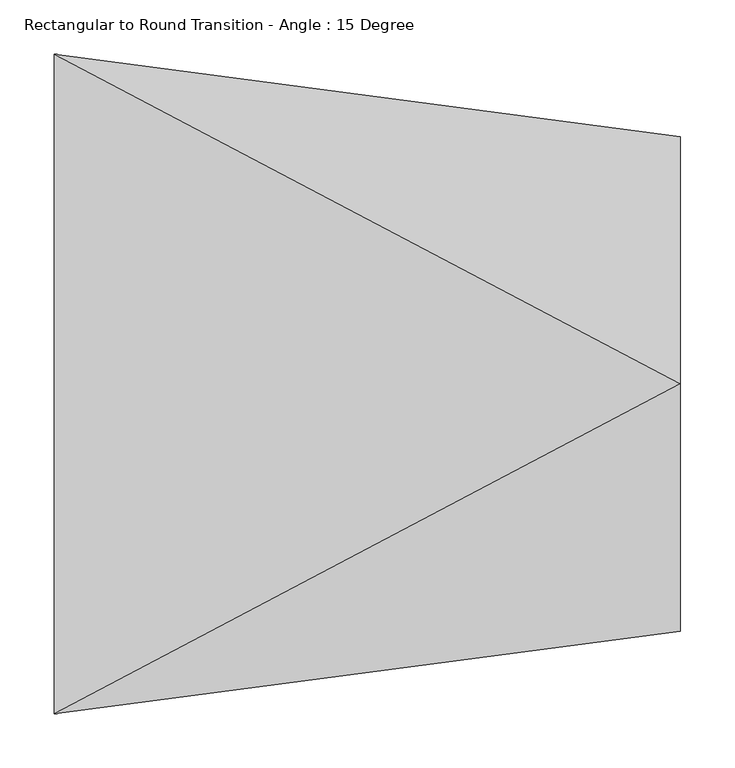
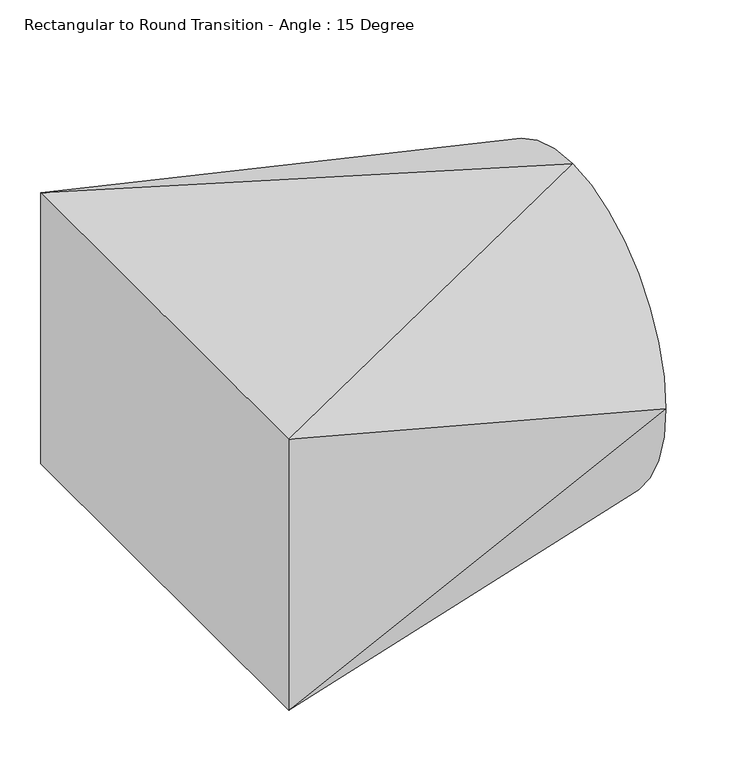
"""IFC4 building model written with IfcOpenShell, lengths in millimetres: duct fitting geometry, Rectangular to Round Transition - Angle : 15 Degree."""

from ifc_helpers import new_model, si_unit, frame, origin, place, context, project, spatial, circle_curve, source, transform, mapped, element, save
from ifc_brep_helpers import plane_surface, spline_surface, advanced_brep


def rectangular_to_round_transition_angle_15_degree_e7a519f7(model_context):
    return source(origin(), model_context, "Body", "AdvancedBrep", [
        advanced_brep(
        [(578.7964634, 0.0, 228.6), (578.7964634, -228.6, 0.0), (578.7964634, 0.0, -228.6), (578.7964634, 228.6, 0.0), (0.0, -304.8, 203.2), (0.0, 304.8, 203.2), (0.0, 304.8, -203.2), (0.0, -304.8, -203.2)],
        [
            (0, 1, circle_curve(frame((578.7964634, 0.0, 0.0), z_axis=(1.0, 0.0, 0.0), x_axis=(0.0, 1.0, 0.0)), 228.6)),
            (1, 2, circle_curve(frame((578.7964634, 0.0, 0.0), z_axis=(1.0, 0.0, 0.0), x_axis=(0.0, 1.0, 0.0)), 228.6)),
            (2, 3, circle_curve(frame((578.7964634, 0.0, 0.0), z_axis=(1.0, 0.0, 0.0), x_axis=(0.0, 1.0, 0.0)), 228.6)),
            (3, 0, circle_curve(frame((578.7964634, 0.0, 0.0), z_axis=(1.0, 0.0, 0.0), x_axis=(0.0, 1.0, 0.0)), 228.6)),
            (4, 5),
            (5, 6),
            (6, 7),
            (7, 4),
            (0, 4),
            (4, 1),
            (7, 1),
            (7, 2),
            (6, 2),
            (6, 3),
            (5, 3),
            (5, 0),
        ],
        [
            plane_surface(frame((578.7964634, 0.0, 0.0), z_axis=(1.0, 0.0, 0.0), x_axis=(0.0, 0.0, -1.0))),
            plane_surface(frame((0.0, 0.0, 0.0), z_axis=(-1.0, 0.0, 0.0), x_axis=(0.0, 0.0, -1.0))),
            spline_surface(2, 1, [[(0.0, -304.8, 203.2), (578.7964634, 0.0, 228.6)], [(0.0, -304.8, 203.2), (578.7964634, -228.6, 228.6)], [(0.0, -304.8, 203.2), (578.7964634, -228.6, 0.0)]], [3, 3], [2, 2], [0.0, 1.0], [0.0, 1.0], weights=[[1.0, 1.0], [0.7071067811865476, 0.7071067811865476], [1.0, 1.0]]),
            plane_surface(frame((0.0, -304.8, 0.0), z_axis=(0.13052619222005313, -0.9914448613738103, 0.0), x_axis=(0.0, 0.0, -1.0))),
            spline_surface(2, 1, [[(0.0, -304.8, -203.2), (578.7964634, -228.6, 0.0)], [(0.0, -304.8, -203.2), (578.7964634, -228.6, -228.6)], [(0.0, -304.8, -203.2), (578.7964634, 0.0, -228.6)]], [3, 3], [2, 2], [0.0, 1.0], [0.0, 1.0], weights=[[1.0, 1.0], [0.7071067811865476, 0.7071067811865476], [1.0, 1.0]]),
            plane_surface(frame((0.0, 0.0, -203.2), z_axis=(-0.04384197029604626, 0.0, -0.9990384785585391), x_axis=(0.0, 1.0, 0.0))),
            spline_surface(2, 1, [[(0.0, 304.8, -203.2), (578.7964634, 0.0, -228.6)], [(0.0, 304.8, -203.2), (578.7964634, 228.6, -228.6)], [(0.0, 304.8, -203.2), (578.7964634, 228.6, 0.0)]], [3, 3], [2, 2], [0.0, 1.0], [0.0, 1.0], weights=[[1.0, 1.0], [0.7071067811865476, 0.7071067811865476], [1.0, 1.0]]),
            plane_surface(frame((0.0, 304.8, 0.0), z_axis=(0.13052619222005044, 0.9914448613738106, 0.0), x_axis=(0.0, 0.0, 1.0))),
            spline_surface(2, 1, [[(0.0, 304.8, 203.2), (578.7964634, 228.6, 0.0)], [(0.0, 304.8, 203.2), (578.7964634, 228.6, 228.6)], [(0.0, 304.8, 203.2), (578.7964634, 0.0, 228.6)]], [3, 3], [2, 2], [0.0, 1.0], [0.0, 1.0], weights=[[1.0, 1.0], [0.7071067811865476, 0.7071067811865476], [1.0, 1.0]]),
            plane_surface(frame((0.0, 0.0, 203.2), z_axis=(-0.0438419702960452, 0.0, 0.9990384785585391), x_axis=(0.0, -1.0, 0.0))),
        ],
        [
            (0, [[1, 2, 3, 4]]),
            (1, [[5, 6, 7, 8]]),
            (2, [[-1, 9, 10]]),
            (3, [[-8, 11, -10]]),
            (4, [[-2, -11, 12]]),
            (5, [[-7, 13, -12]]),
            (6, [[-3, -13, 14]]),
            (7, [[-6, 15, -14]]),
            (8, [[-4, -15, 16]]),
            (9, [[-5, -9, -16]]),
        ],
    ),
    ])


if __name__ == "__main__":
    model = new_model("IFC4")
    model_context = context("Model", 3, world=origin())
    ifc_project = project(units=[si_unit("LENGTHUNIT", "METRE", prefix="MILLI")], contexts=[model_context])
    site = spatial("IfcSite", under=ifc_project)
    building = spatial("IfcBuilding", under=site)
    placement = place(None, origin())
    rectangular_to_round_transition_angle_15_degree_shape = rectangular_to_round_transition_angle_15_degree_e7a519f7(model_context)
    element("IfcDuctFitting", 1, ObjectType="Rectangular to Round Transition - Angle : 15 Degree", at=placement, inside=building, context=model_context, shape_type="MappedRepresentation", body=[
        mapped(rectangular_to_round_transition_angle_15_degree_shape, transform((0.0, 0.0, 0.0), x_axis=(1.0, 0.0, 0.0), y_axis=(0.0, 1.0, 0.0), z_axis=(0.0, 0.0, 1.0))),
    ])
    save(model, "model.ifc")
